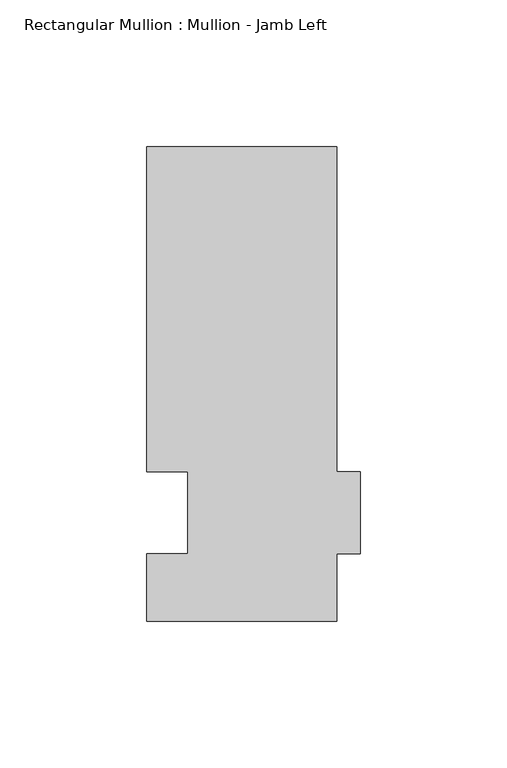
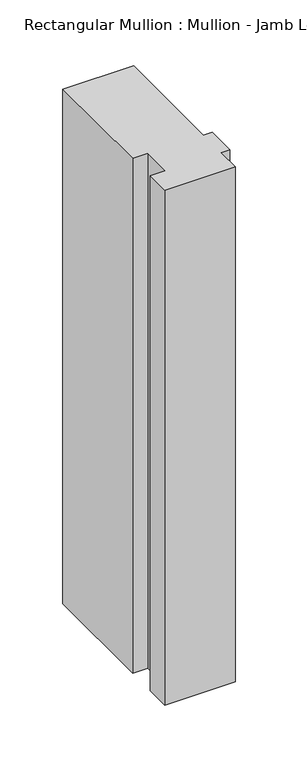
"""IFC4 building model written with IfcOpenShell, lengths in millimetres: member geometry, Rectangular Mullion : Mullion - Jamb Left."""

from ifc_helpers import new_model, si_unit, frame, origin, place, context, project, spatial, polyline, outline, extrude, source, transform, mapped, element, save


def rectangular_mullion_mullion_jamb_left_50a4b429(model_context):
    return source(origin(), model_context, "Body", "SweptSolid", [
        extrude(outline(polyline([(-73.0, -14.0), (-59.0, -14.0), (-59.0, 14.0), (-73.0, 14.0), (-73.0, 125.0), (-8.0, 125.0), (-8.0, 14.0), (0.0, 14.0), (0.0, -14.0), (-8.0, -14.0), (-8.0, -37.0), (-73.0, -37.0), (-73.0, -14.0)])), frame((0.0, 0.0, -500.0), z_axis=(0.0, 0.0, 1.0), x_axis=(1.0, 0.0, 0.0)), (0.0, 0.0, 1.0), 500.0),
    ])


if __name__ == "__main__":
    model = new_model("IFC4")
    model_context = context("Model", 3, world=origin())
    ifc_project = project(units=[si_unit("LENGTHUNIT", "METRE", prefix="MILLI")], contexts=[model_context])
    site = spatial("IfcSite", under=ifc_project)
    building = spatial("IfcBuilding", under=site)
    placement = place(None, origin())
    rectangular_mullion_mullion_jamb_left_shape = rectangular_mullion_mullion_jamb_left_50a4b429(model_context)
    element("IfcMember", 1, ObjectType="Rectangular Mullion : Mullion - Jamb Left", at=placement, inside=building, context=model_context, shape_type="MappedRepresentation", body=[
        mapped(rectangular_mullion_mullion_jamb_left_shape, transform((0.0, 0.0, 0.0), x_axis=(1.0, 0.0, 0.0), y_axis=(0.0, 1.0, 0.0), z_axis=(0.0, 0.0, 1.0))),
    ])
    save(model, "model.ifc")
